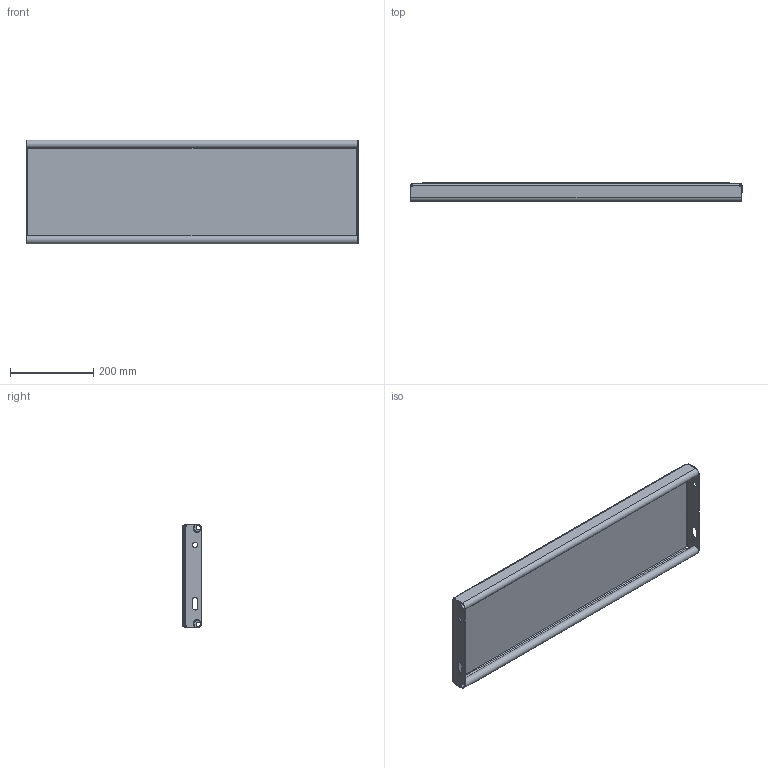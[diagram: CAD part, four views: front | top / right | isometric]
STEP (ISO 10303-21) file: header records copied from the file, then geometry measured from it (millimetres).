
FILE_DESCRIPTION (( 'STEP AP214' ), '1' );
FILE_NAME ('OPTIMO-Tread-Achil-O2-800x250x45x2-st240-F100340100_plain.STEP', '2021-03-16T13:59:49', ( '' ), ( '' ), 'SwSTEP 2.0', 'SolidWorks 2021', '' );
FILE_SCHEMA (( 'AUTOMOTIVE_DESIGN' ));
Length unit declared in the file: millimetre
Products named in the file (1): OPTIMO-Tread-Achil-O2-800x250x45x2-st240-F100340100_plain
Bounding box: 800 x 45 x 250 mm (x, y, z)
Volume: 1218761 mm3; surface area: 693265.7 mm2
Topology: 1 solids, 1 shells, 248 faces, 640 edges, 412 vertices
Faces by surface type: plane 173, bspline 39, cylinder 36
Entity records: 9924 total; most frequent: CARTESIAN_POINT 4092, ORIENTED_EDGE 1280, DIRECTION 1022, EDGE_CURVE 640, LINE 490, VECTOR 490, VERTEX_POINT 412, EDGE_LOOP 274
